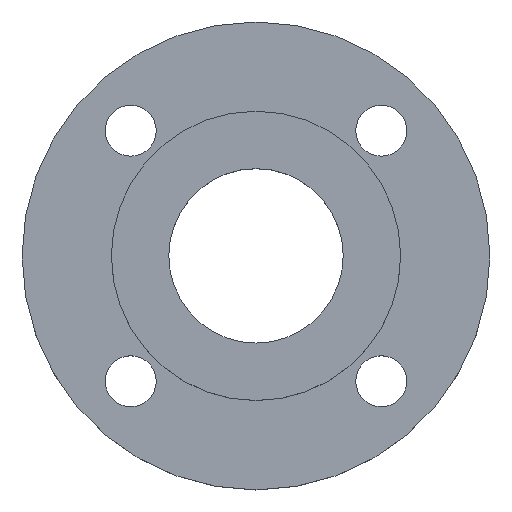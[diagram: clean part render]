
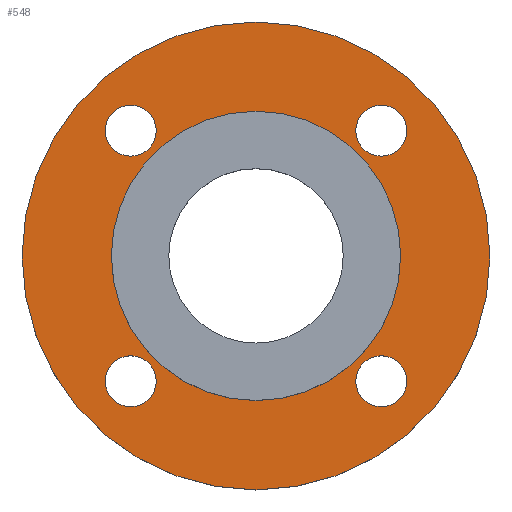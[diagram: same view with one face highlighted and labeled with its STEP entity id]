
A CAD part, top view. The second image highlights one B-rep face of the part: STEP entity #548.
In plain terms, the highlighted planar face has unit normal (0, 0, 1).
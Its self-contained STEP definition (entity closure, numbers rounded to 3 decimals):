
#21 = FACE_OUTER_BOUND ( 'NONE', #564, .T. ) ;
#22 = PLANE ( 'NONE',  #458 ) ;
#28 = CARTESIAN_POINT ( 'NONE',  ( 0., 0., 0. ) ) ;
#29 = DIRECTION ( 'NONE',  ( 0., 0., 1. ) ) ;
#33 = DIRECTION ( 'NONE',  ( 1., 0., 0. ) ) ;
#36 = VERTEX_POINT ( 'NONE', #523 ) ;
#47 = CARTESIAN_POINT ( 'NONE',  ( -35.194, -44.194, 0. ) ) ;
#61 = EDGE_CURVE ( 'NONE', #587, #585, #353, .T. ) ;
#64 = DIRECTION ( 'NONE',  ( -1., 0., 0. ) ) ;
#65 = CARTESIAN_POINT ( 'NONE',  ( -44.194, 44.194, 0. ) ) ;
#66 = DIRECTION ( 'NONE',  ( 0., 0., -1. ) ) ;
#67 = DIRECTION ( 'NONE',  ( -1., 0., 0. ) ) ;
#68 = CARTESIAN_POINT ( 'NONE',  ( 44.194, 44.194, 0. ) ) ;
#71 = DIRECTION ( 'NONE',  ( 0., 0., -1. ) ) ;
#75 = DIRECTION ( 'NONE',  ( -1., 0., 0. ) ) ;
#81 = CARTESIAN_POINT ( 'NONE',  ( 0., 0., 0. ) ) ;
#82 = DIRECTION ( 'NONE',  ( 0., 0., 1. ) ) ;
#83 = DIRECTION ( 'NONE',  ( 1., 0., 0. ) ) ;
#104 = AXIS2_PLACEMENT_3D ( 'NONE', #466, #465, #304 ) ;
#105 = CIRCLE ( 'NONE', #104, 9. ) ;
#107 = FACE_BOUND ( 'NONE', #578, .T. ) ;
#109 = CIRCLE ( 'NONE', #215, 9. ) ;
#110 = FACE_BOUND ( 'NONE', #541, .T. ) ;
#112 = AXIS2_PLACEMENT_3D ( 'NONE', #627, #303, #64 ) ;
#115 = CIRCLE ( 'NONE', #279, 37.5 ) ;
#116 = AXIS2_PLACEMENT_3D ( 'NONE', #141, #714, #288 ) ;
#117 = CARTESIAN_POINT ( 'NONE',  ( -82.5, 0., 0. ) ) ;
#119 = EDGE_CURVE ( 'NONE', #558, #654, #394, .T. ) ;
#125 = CIRCLE ( 'NONE', #116, 9. ) ;
#141 = CARTESIAN_POINT ( 'NONE',  ( -44.194, 44.194, 0. ) ) ;
#152 = AXIS2_PLACEMENT_3D ( 'NONE', #65, #66, #67 ) ;
#158 = CARTESIAN_POINT ( 'NONE',  ( 35.194, 44.194, 0. ) ) ;
#172 = CIRCLE ( 'NONE', #367, 9. ) ;
#181 = EDGE_CURVE ( 'NONE', #647, #722, #562, .T. ) ;
#186 = CARTESIAN_POINT ( 'NONE',  ( 53.194, 44.194, 0. ) ) ;
#189 = CIRCLE ( 'NONE', #152, 9. ) ;
#199 = CARTESIAN_POINT ( 'NONE',  ( 35.194, -44.194, 0. ) ) ;
#211 = EDGE_CURVE ( 'NONE', #618, #36, #452, .T. ) ;
#215 = AXIS2_PLACEMENT_3D ( 'NONE', #559, #490, #488 ) ;
#229 = CARTESIAN_POINT ( 'NONE',  ( -37.5, 0., 0. ) ) ;
#232 = CARTESIAN_POINT ( 'NONE',  ( -53.194, -44.194, 0. ) ) ;
#251 = CARTESIAN_POINT ( 'NONE',  ( 82.5, 0., 0. ) ) ;
#254 = FACE_BOUND ( 'NONE', #540, .T. ) ;
#256 = FACE_BOUND ( 'NONE', #573, .T. ) ;
#259 = FACE_BOUND ( 'NONE', #553, .T. ) ;
#265 = CARTESIAN_POINT ( 'NONE',  ( 0., 0., 0. ) ) ;
#266 = CARTESIAN_POINT ( 'NONE',  ( -53.194, 44.194, 0. ) ) ;
#270 = CARTESIAN_POINT ( 'NONE',  ( -35.194, 44.194, 0. ) ) ;
#279 = AXIS2_PLACEMENT_3D ( 'NONE', #265, #389, #381 ) ;
#288 = DIRECTION ( 'NONE',  ( -1., 0., 0. ) ) ;
#295 = CARTESIAN_POINT ( 'NONE',  ( 37.5, 0., 0. ) ) ;
#303 = DIRECTION ( 'NONE',  ( 0., 0., -1. ) ) ;
#304 = DIRECTION ( 'NONE',  ( -1., 0., 0. ) ) ;
#310 = DIRECTION ( 'NONE',  ( -1., 0., 0. ) ) ;
#313 = DIRECTION ( 'NONE',  ( 0., 0., -1. ) ) ;
#314 = CARTESIAN_POINT ( 'NONE',  ( 44.194, -44.194, 0. ) ) ;
#348 = DIRECTION ( 'NONE',  ( 1., 0., 0. ) ) ;
#351 = DIRECTION ( 'NONE',  ( 0., 0., 1. ) ) ;
#352 = CARTESIAN_POINT ( 'NONE',  ( 0., 0., 0. ) ) ;
#353 = CIRCLE ( 'NONE', #704, 9. ) ;
#367 = AXIS2_PLACEMENT_3D ( 'NONE', #68, #71, #75 ) ;
#381 = DIRECTION ( 'NONE',  ( 1., 0., 0. ) ) ;
#384 = EDGE_CURVE ( 'NONE', #691, #660, #125, .T. ) ;
#389 = DIRECTION ( 'NONE',  ( 0., 0., 1. ) ) ;
#394 = CIRCLE ( 'NONE', #563, 82.5 ) ;
#397 = EDGE_CURVE ( 'NONE', #722, #647, #115, .T. ) ;
#419 = DIRECTION ( 'NONE',  ( 1., 0., 0. ) ) ;
#420 = DIRECTION ( 'NONE',  ( 0., 0., 1. ) ) ;
#427 = EDGE_CURVE ( 'NONE', #493, #648, #498, .T. ) ;
#441 = EDGE_CURVE ( 'NONE', #648, #493, #109, .T. ) ;
#449 = CARTESIAN_POINT ( 'NONE',  ( 0., 0., 0. ) ) ;
#452 = CIRCLE ( 'NONE', #476, 9. ) ;
#454 = CIRCLE ( 'NONE', #725, 82.5 ) ;
#455 = EDGE_CURVE ( 'NONE', #36, #618, #105, .T. ) ;
#458 = AXIS2_PLACEMENT_3D ( 'NONE', #28, #29, #33 ) ;
#465 = DIRECTION ( 'NONE',  ( 0., 0., -1. ) ) ;
#466 = CARTESIAN_POINT ( 'NONE',  ( 44.194, -44.194, 0. ) ) ;
#476 = AXIS2_PLACEMENT_3D ( 'NONE', #314, #313, #310 ) ;
#479 = AXIS2_PLACEMENT_3D ( 'NONE', #352, #351, #348 ) ;
#488 = DIRECTION ( 'NONE',  ( -1., 0., 0. ) ) ;
#490 = DIRECTION ( 'NONE',  ( 0., 0., -1. ) ) ;
#493 = VERTEX_POINT ( 'NONE', #47 ) ;
#498 = CIRCLE ( 'NONE', #112, 9. ) ;
#504 = EDGE_CURVE ( 'NONE', #660, #691, #189, .T. ) ;
#511 = EDGE_CURVE ( 'NONE', #585, #587, #172, .T. ) ;
#512 = DIRECTION ( 'NONE',  ( -1., 0., 0. ) ) ;
#513 = DIRECTION ( 'NONE',  ( 0., 0., -1. ) ) ;
#514 = CARTESIAN_POINT ( 'NONE',  ( 44.194, 44.194, 0. ) ) ;
#518 = EDGE_CURVE ( 'NONE', #654, #558, #454, .T. ) ;
#523 = CARTESIAN_POINT ( 'NONE',  ( 53.194, -44.194, 0. ) ) ;
#540 = EDGE_LOOP ( 'NONE', ( #692, #693 ) ) ;
#541 = EDGE_LOOP ( 'NONE', ( #696, #695 ) ) ;
#548 = ADVANCED_FACE ( 'NONE', ( #107, #110, #254, #256, #259, #21 ), #22, .T. ) ;
#553 = EDGE_LOOP ( 'NONE', ( #710, #684 ) ) ;
#558 = VERTEX_POINT ( 'NONE', #117 ) ;
#559 = CARTESIAN_POINT ( 'NONE',  ( -44.194, -44.194, 0. ) ) ;
#562 = CIRCLE ( 'NONE', #479, 37.5 ) ;
#563 = AXIS2_PLACEMENT_3D ( 'NONE', #449, #420, #419 ) ;
#564 = EDGE_LOOP ( 'NONE', ( #713, #718 ) ) ;
#573 = EDGE_LOOP ( 'NONE', ( #694, #682 ) ) ;
#578 = EDGE_LOOP ( 'NONE', ( #705, #697 ) ) ;
#585 = VERTEX_POINT ( 'NONE', #158 ) ;
#587 = VERTEX_POINT ( 'NONE', #186 ) ;
#618 = VERTEX_POINT ( 'NONE', #199 ) ;
#627 = CARTESIAN_POINT ( 'NONE',  ( -44.194, -44.194, 0. ) ) ;
#647 = VERTEX_POINT ( 'NONE', #229 ) ;
#648 = VERTEX_POINT ( 'NONE', #232 ) ;
#654 = VERTEX_POINT ( 'NONE', #251 ) ;
#660 = VERTEX_POINT ( 'NONE', #270 ) ;
#682 = ORIENTED_EDGE ( 'NONE', *, *, #511, .T. ) ;
#684 = ORIENTED_EDGE ( 'NONE', *, *, #181, .F. ) ;
#691 = VERTEX_POINT ( 'NONE', #266 ) ;
#692 = ORIENTED_EDGE ( 'NONE', *, *, #504, .T. ) ;
#693 = ORIENTED_EDGE ( 'NONE', *, *, #384, .T. ) ;
#694 = ORIENTED_EDGE ( 'NONE', *, *, #61, .T. ) ;
#695 = ORIENTED_EDGE ( 'NONE', *, *, #441, .T. ) ;
#696 = ORIENTED_EDGE ( 'NONE', *, *, #427, .T. ) ;
#697 = ORIENTED_EDGE ( 'NONE', *, *, #211, .T. ) ;
#704 = AXIS2_PLACEMENT_3D ( 'NONE', #514, #513, #512 ) ;
#705 = ORIENTED_EDGE ( 'NONE', *, *, #455, .T. ) ;
#710 = ORIENTED_EDGE ( 'NONE', *, *, #397, .F. ) ;
#713 = ORIENTED_EDGE ( 'NONE', *, *, #518, .T. ) ;
#714 = DIRECTION ( 'NONE',  ( 0., 0., -1. ) ) ;
#718 = ORIENTED_EDGE ( 'NONE', *, *, #119, .T. ) ;
#722 = VERTEX_POINT ( 'NONE', #295 ) ;
#725 = AXIS2_PLACEMENT_3D ( 'NONE', #81, #82, #83 ) ;
